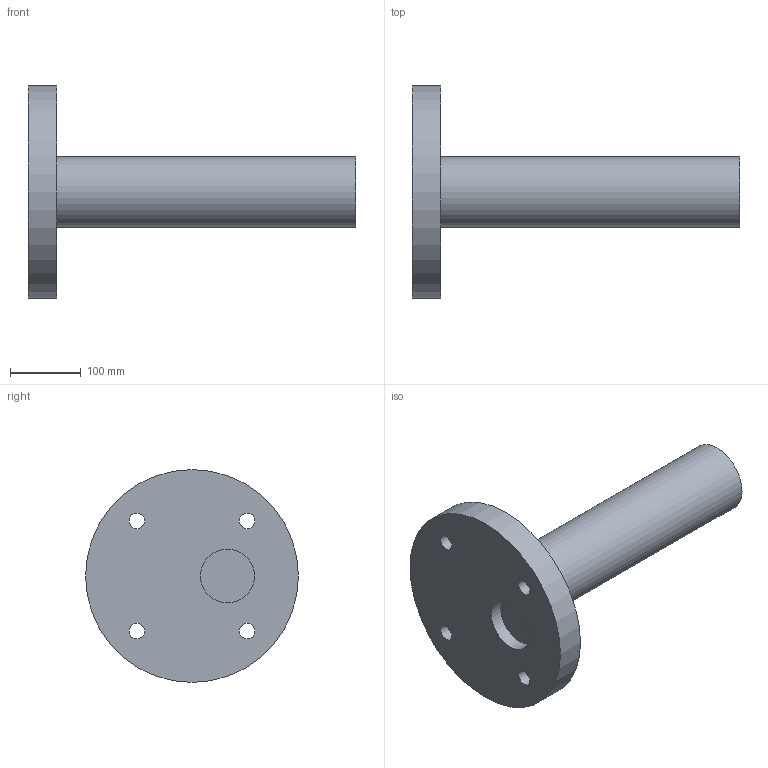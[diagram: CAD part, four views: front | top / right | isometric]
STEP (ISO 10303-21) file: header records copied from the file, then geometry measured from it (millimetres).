
FILE_DESCRIPTION(('Open CASCADE Model'),'2;1');
FILE_NAME('Open CASCADE Shape Model','2026-09-19T12:55:25',('Author'),( 'Open CASCADE'),'Open CASCADE STEP processor 7.9','Open CASCADE 7.9' ,'Unknown');
FILE_SCHEMA(('AUTOMOTIVE_DESIGN { 1 0 10303 214 1 1 1 1 }'));
Length unit declared in the file: millimetre
Products named in the file (1): Open CASCADE STEP translator 7.9 466
Bounding box: 462 x 300 x 300 mm (x, y, z)
Volume: 5994799.7 mm3; surface area: 324199.8 mm2
Topology: 1 solids, 1 shells, 11 faces, 21 edges, 14 vertices
Faces by surface type: cylinder 7, plane 4
Full cylindrical faces by diameter (mm): 22 x4, 76 x1, 100 x1, 300 x1
Entity records: 588 total; most frequent: DIRECTION 101, CARTESIAN_POINT 89, ORIENTED_EDGE 42, PCURVE 42, DEFINITIONAL_REPRESENTATION 42, LINE 35, VECTOR 35, CIRCLE 28
